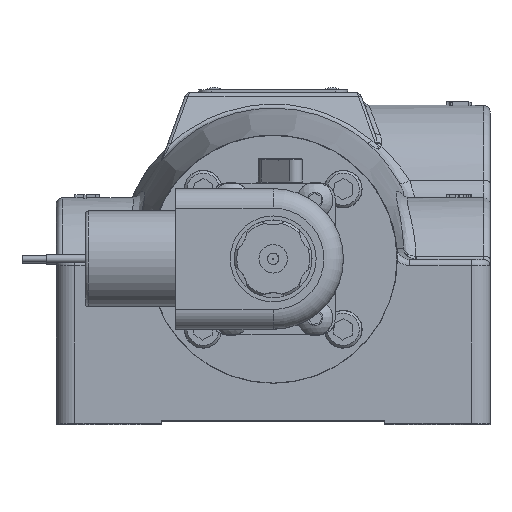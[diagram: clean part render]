
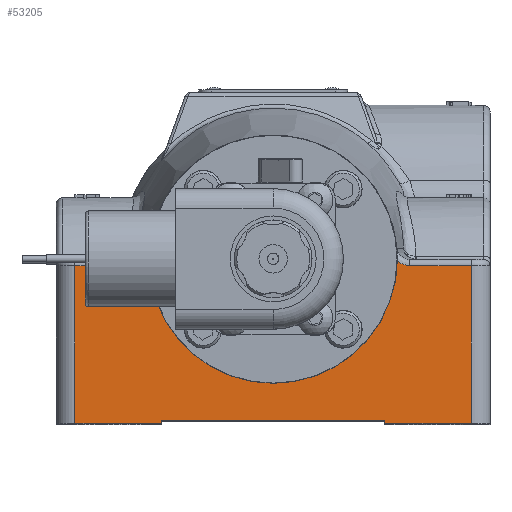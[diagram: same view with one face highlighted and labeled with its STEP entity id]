
A CAD part, top view. The second image highlights one B-rep face of the part: STEP entity #53205.
In plain terms, the highlighted planar face has unit normal (0, 0, 1).
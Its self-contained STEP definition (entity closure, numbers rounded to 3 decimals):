
#1215=B_SPLINE_CURVE_WITH_KNOTS('',3,(#87795,#87796,#87797,#87798),
 .UNSPECIFIED.,.F.,.F.,(4,4),(0.356,0.703),
 .UNSPECIFIED.);
#1216=B_SPLINE_CURVE_WITH_KNOTS('',3,(#87802,#87803,#87804,#87805,#87806),
 .UNSPECIFIED.,.F.,.F.,(4,1,4),(0.,0.291,0.347),
 .UNSPECIFIED.);
#3349=PLANE('',#57778);
#5275=FACE_OUTER_BOUND('',#8620,.T.);
#8620=EDGE_LOOP('',(#38995,#38996,#38997,#38998,#38999,#39000,#39001,#39002,
#39003,#39004,#39005,#39006));
#12041=CIRCLE('',#57779,3.178);
#15100=LINE('',#87789,#18400);
#15101=LINE('',#87791,#18401);
#15102=LINE('',#87793,#18402);
#15103=LINE('',#87808,#18403);
#15104=LINE('',#87810,#18404);
#15105=LINE('',#87812,#18405);
#15106=LINE('',#87814,#18406);
#15107=LINE('',#87816,#18407);
#15108=LINE('',#87817,#18408);
#18400=VECTOR('',#67697,1.);
#18401=VECTOR('',#67698,1.);
#18402=VECTOR('',#67699,1.);
#18403=VECTOR('',#67702,1.);
#18404=VECTOR('',#67703,1.);
#18405=VECTOR('',#67704,1.);
#18406=VECTOR('',#67705,1.);
#18407=VECTOR('',#67706,1.);
#18408=VECTOR('',#67707,1.);
#22326=VERTEX_POINT('',#87787);
#22327=VERTEX_POINT('',#87788);
#22328=VERTEX_POINT('',#87790);
#22329=VERTEX_POINT('',#87792);
#22330=VERTEX_POINT('',#87794);
#22331=VERTEX_POINT('',#87799);
#22332=VERTEX_POINT('',#87801);
#22333=VERTEX_POINT('',#87807);
#22334=VERTEX_POINT('',#87809);
#22335=VERTEX_POINT('',#87811);
#22336=VERTEX_POINT('',#87813);
#22337=VERTEX_POINT('',#87815);
#28254=EDGE_CURVE('',#22326,#22327,#15100,.T.);
#28255=EDGE_CURVE('',#22328,#22327,#15101,.T.);
#28256=EDGE_CURVE('',#22329,#22328,#15102,.T.);
#28257=EDGE_CURVE('',#22330,#22329,#1215,.T.);
#28258=EDGE_CURVE('',#22331,#22330,#12041,.T.);
#28259=EDGE_CURVE('',#22332,#22331,#1216,.T.);
#28260=EDGE_CURVE('',#22333,#22332,#15103,.T.);
#28261=EDGE_CURVE('',#22334,#22333,#15104,.T.);
#28262=EDGE_CURVE('',#22334,#22335,#15105,.T.);
#28263=EDGE_CURVE('',#22335,#22336,#15106,.T.);
#28264=EDGE_CURVE('',#22336,#22337,#15107,.T.);
#28265=EDGE_CURVE('',#22337,#22326,#15108,.T.);
#38995=ORIENTED_EDGE('',*,*,#28254,.T.);
#38996=ORIENTED_EDGE('',*,*,#28255,.F.);
#38997=ORIENTED_EDGE('',*,*,#28256,.F.);
#38998=ORIENTED_EDGE('',*,*,#28257,.F.);
#38999=ORIENTED_EDGE('',*,*,#28258,.F.);
#39000=ORIENTED_EDGE('',*,*,#28259,.F.);
#39001=ORIENTED_EDGE('',*,*,#28260,.F.);
#39002=ORIENTED_EDGE('',*,*,#28261,.F.);
#39003=ORIENTED_EDGE('',*,*,#28262,.T.);
#39004=ORIENTED_EDGE('',*,*,#28263,.T.);
#39005=ORIENTED_EDGE('',*,*,#28264,.T.);
#39006=ORIENTED_EDGE('',*,*,#28265,.T.);
#53205=ADVANCED_FACE('',(#5275),#3349,.T.);
#57778=AXIS2_PLACEMENT_3D('',#87786,#67695,#67696);
#57779=AXIS2_PLACEMENT_3D('',#87800,#67700,#67701);
#67695=DIRECTION('center_axis',(0.,0.,1.));
#67696=DIRECTION('ref_axis',(1.,0.,0.));
#67697=DIRECTION('',(1.,0.,0.));
#67698=DIRECTION('',(0.,-1.,0.));
#67699=DIRECTION('',(1.,0.,0.));
#67700=DIRECTION('center_axis',(0.,0.,1.));
#67701=DIRECTION('ref_axis',(-1.,0.,0.));
#67702=DIRECTION('',(1.,0.,0.));
#67703=DIRECTION('',(0.,1.,0.));
#67704=DIRECTION('',(1.,0.,0.));
#67705=DIRECTION('',(0.,1.,0.));
#67706=DIRECTION('',(1.,0.,0.));
#67707=DIRECTION('',(0.,-1.,0.));
#87786=CARTESIAN_POINT('Origin',(0.,-4.286,8.652));
#87787=CARTESIAN_POINT('',(2.858,-4.207,8.652));
#87788=CARTESIAN_POINT('',(5.08,-4.207,8.652));
#87789=CARTESIAN_POINT('',(0.,-4.207,8.652));
#87790=CARTESIAN_POINT('',(5.08,-0.159,8.652));
#87791=CARTESIAN_POINT('',(5.08,-3.215,8.652));
#87792=CARTESIAN_POINT('',(3.497,-0.159,8.652));
#87793=CARTESIAN_POINT('',(0.,-0.159,8.652));
#87794=CARTESIAN_POINT('',(3.177,-0.037,8.652));
#87795=CARTESIAN_POINT('Ctrl Pts',(3.178,-0.037,
8.652));
#87796=CARTESIAN_POINT('Ctrl Pts',(3.265,-0.114,
8.652));
#87797=CARTESIAN_POINT('Ctrl Pts',(3.381,-0.159,
8.652));
#87798=CARTESIAN_POINT('Ctrl Pts',(3.497,-0.159,
8.652));
#87799=CARTESIAN_POINT('',(-3.177,-0.037,8.652));
#87800=CARTESIAN_POINT('Origin',(0.,0.,8.652));
#87801=CARTESIAN_POINT('',(-3.497,-0.159,8.652));
#87802=CARTESIAN_POINT('Ctrl Pts',(-3.497,-0.159,
8.652));
#87803=CARTESIAN_POINT('Ctrl Pts',(-3.4,-0.159,
8.652));
#87804=CARTESIAN_POINT('Ctrl Pts',(-3.283,-0.122,
8.652));
#87805=CARTESIAN_POINT('Ctrl Pts',(-3.192,-0.05,
8.652));
#87806=CARTESIAN_POINT('Ctrl Pts',(-3.178,-0.037,
8.652));
#87807=CARTESIAN_POINT('',(-5.08,-0.159,8.652));
#87808=CARTESIAN_POINT('',(0.,-0.159,8.652));
#87809=CARTESIAN_POINT('',(-5.08,-4.207,8.652));
#87810=CARTESIAN_POINT('',(-5.08,-3.215,8.652));
#87811=CARTESIAN_POINT('',(-2.858,-4.207,8.652));
#87812=CARTESIAN_POINT('',(0.,-4.207,8.652));
#87813=CARTESIAN_POINT('',(-2.858,-4.128,8.652));
#87814=CARTESIAN_POINT('',(-2.858,-4.247,8.652));
#87815=CARTESIAN_POINT('',(2.858,-4.128,8.652));
#87816=CARTESIAN_POINT('',(0.,-4.128,8.652));
#87817=CARTESIAN_POINT('',(2.858,-4.247,8.652));
